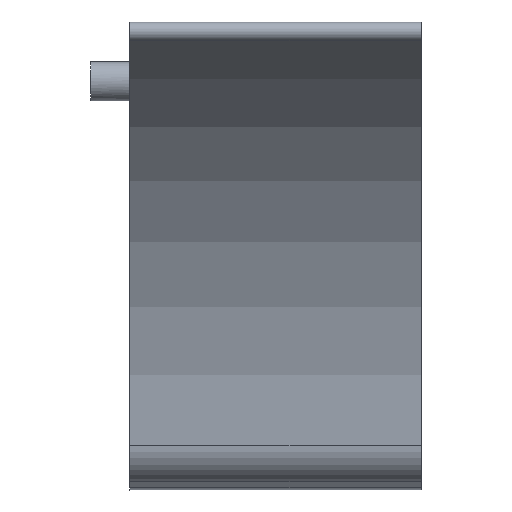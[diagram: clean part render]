
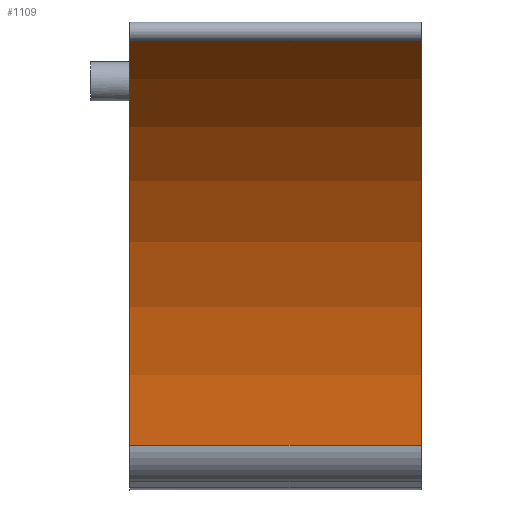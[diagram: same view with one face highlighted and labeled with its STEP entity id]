
A CAD part, top view. The second image highlights one B-rep face of the part: STEP entity #1109.
In plain terms, the highlighted cylindrical face has radius 48 mm (diameter 96 mm), a partial arc.
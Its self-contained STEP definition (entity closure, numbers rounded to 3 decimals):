
#80=LINE('',#1773,#143);
#81=LINE('',#1777,#144);
#143=VECTOR('',#1423,1000.);
#144=VECTOR('',#1426,1000.);
#263=ORIENTED_EDGE('',*,*,#589,.T.);
#264=ORIENTED_EDGE('',*,*,#590,.T.);
#265=ORIENTED_EDGE('',*,*,#591,.F.);
#266=ORIENTED_EDGE('',*,*,#592,.T.);
#589=EDGE_CURVE('',#748,#749,#835,.T.);
#590=EDGE_CURVE('',#749,#750,#80,.F.);
#591=EDGE_CURVE('',#751,#750,#836,.T.);
#592=EDGE_CURVE('',#751,#748,#81,.T.);
#748=VERTEX_POINT('',#1771);
#749=VERTEX_POINT('',#1772);
#750=VERTEX_POINT('',#1774);
#751=VERTEX_POINT('',#1776);
#835=CIRCLE('',#1216,48.);
#836=CIRCLE('',#1217,48.);
#908=EDGE_LOOP('',(#263,#264,#265,#266));
#995=FACE_BOUND('',#908,.T.);
#1074=CYLINDRICAL_SURFACE('',#1215,48.);
#1109=ADVANCED_FACE('',(#995),#1074,.F.);
#1215=AXIS2_PLACEMENT_3D('',#1769,#1419,#1420);
#1216=AXIS2_PLACEMENT_3D('',#1770,#1421,#1422);
#1217=AXIS2_PLACEMENT_3D('',#1775,#1424,#1425);
#1419=DIRECTION('',(-1.,0.,0.));
#1420=DIRECTION('',(0.,-1.,0.));
#1421=DIRECTION('',(-1.,0.,0.));
#1422=DIRECTION('',(0.,1.,0.));
#1423=DIRECTION('',(-1.,0.,0.));
#1424=DIRECTION('',(-1.,0.,0.));
#1425=DIRECTION('',(0.,1.,0.));
#1426=DIRECTION('',(-1.,0.,0.));
#1769=CARTESIAN_POINT('',(36.326,-0.721,68.148));
#1770=CARTESIAN_POINT('',(10.326,-0.721,68.148));
#1771=CARTESIAN_POINT('',(10.326,41.073,44.541));
#1772=CARTESIAN_POINT('',(10.326,-0.518,20.148));
#1773=CARTESIAN_POINT('',(36.326,-0.518,20.148));
#1774=CARTESIAN_POINT('',(40.326,-0.518,20.148));
#1775=CARTESIAN_POINT('',(40.326,-0.721,68.148));
#1776=CARTESIAN_POINT('',(40.326,41.073,44.541));
#1777=CARTESIAN_POINT('',(36.326,41.073,44.541));
